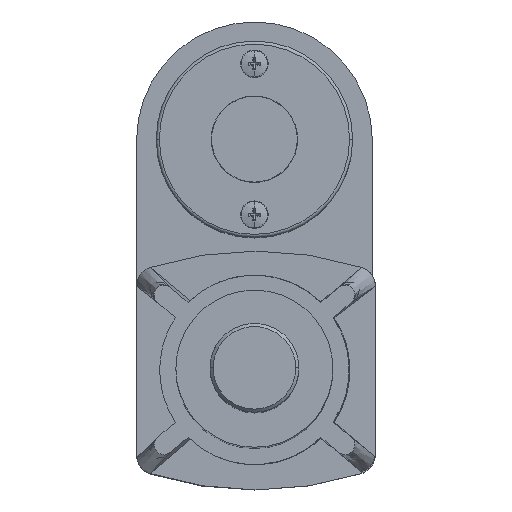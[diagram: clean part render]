
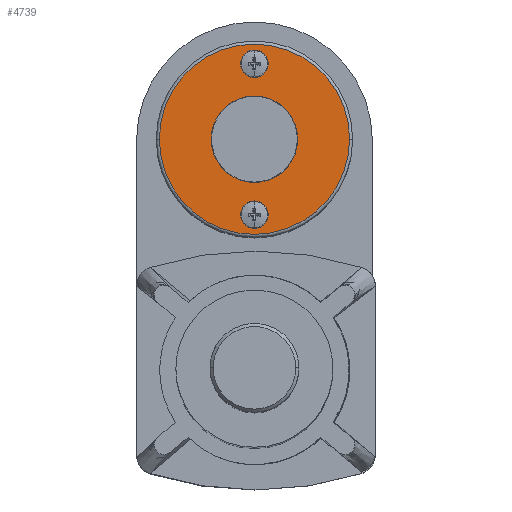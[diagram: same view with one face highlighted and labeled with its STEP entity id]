
A CAD part, top view. The second image highlights one B-rep face of the part: STEP entity #4739.
In plain terms, the highlighted planar face has unit normal (0, 0, 1).
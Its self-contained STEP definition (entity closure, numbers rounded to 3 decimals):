
#60 = EDGE_LOOP ( 'NONE', ( #10079, #9430 ) ) ;
#487 = DIRECTION ( 'NONE',  ( 0., 0., 1. ) ) ;
#711 = ORIENTED_EDGE ( 'NONE', *, *, #6206, .F. ) ;
#783 = DIRECTION ( 'NONE',  ( -1., 0., 0. ) ) ;
#800 = PLANE ( 'NONE',  #6716 ) ;
#1346 = CARTESIAN_POINT ( 'NONE',  ( 36.068, -56.038, 406.098 ) ) ;
#1573 = DIRECTION ( 'NONE',  ( 0., 0., 1. ) ) ;
#1995 = ORIENTED_EDGE ( 'NONE', *, *, #4434, .F. ) ;
#2455 = DIRECTION ( 'NONE',  ( -1., 0., 0. ) ) ;
#2496 = AXIS2_PLACEMENT_3D ( 'NONE', #10697, #3949, #4804 ) ;
#2692 = EDGE_CURVE ( 'NONE', #8243, #8396, #7508, .T. ) ;
#2884 = AXIS2_PLACEMENT_3D ( 'NONE', #4893, #1573, #783 ) ;
#3210 = CARTESIAN_POINT ( 'NONE',  ( 41.148, -56.038, 406.098 ) ) ;
#3275 = CARTESIAN_POINT ( 'NONE',  ( 36.068, -7.238, 406.098 ) ) ;
#3319 = CARTESIAN_POINT ( 'NONE',  ( 38.608, -31.638, 406.098 ) ) ;
#3325 = AXIS2_PLACEMENT_3D ( 'NONE', #10318, #3677, #5331 ) ;
#3510 = VERTEX_POINT ( 'NONE', #3275 ) ;
#3623 = CIRCLE ( 'NONE', #3926, 2.54 ) ;
#3677 = DIRECTION ( 'NONE',  ( 0., 0., 1. ) ) ;
#3915 = CARTESIAN_POINT ( 'NONE',  ( 7.858, -31.638, 406.098 ) ) ;
#3926 = AXIS2_PLACEMENT_3D ( 'NONE', #7344, #9959, #3987 ) ;
#3949 = DIRECTION ( 'NONE',  ( 0., 0., 1. ) ) ;
#3987 = DIRECTION ( 'NONE',  ( -1., 0., 0. ) ) ;
#4144 = EDGE_CURVE ( 'NONE', #8396, #8243, #6259, .T. ) ;
#4339 = DIRECTION ( 'NONE',  ( 0., 0., 1. ) ) ;
#4434 = EDGE_CURVE ( 'NONE', #6786, #3510, #7714, .T. ) ;
#4543 = FACE_BOUND ( 'NONE', #9669, .T. ) ;
#4739 = ADVANCED_FACE ( 'NONE', ( #4543, #6123, #6516 ), #800, .T. ) ;
#4782 = CARTESIAN_POINT ( 'NONE',  ( 38.608, -31.638, 406.098 ) ) ;
#4804 = DIRECTION ( 'NONE',  ( -1., 0., 0. ) ) ;
#4893 = CARTESIAN_POINT ( 'NONE',  ( 38.608, -56.038, 406.098 ) ) ;
#5175 = EDGE_CURVE ( 'NONE', #10694, #7938, #7828, .T. ) ;
#5199 = CIRCLE ( 'NONE', #5430, 30.75 ) ;
#5331 = DIRECTION ( 'NONE',  ( -1., 0., 0. ) ) ;
#5430 = AXIS2_PLACEMENT_3D ( 'NONE', #4782, #487, #6503 ) ;
#5526 = CARTESIAN_POINT ( 'NONE',  ( 41.148, -7.238, 406.098 ) ) ;
#5746 = AXIS2_PLACEMENT_3D ( 'NONE', #6835, #4339, #5892 ) ;
#5892 = DIRECTION ( 'NONE',  ( -1., 0., 0. ) ) ;
#5951 = CARTESIAN_POINT ( 'NONE',  ( 69.358, -31.638, 406.098 ) ) ;
#6123 = FACE_BOUND ( 'NONE', #9315, .T. ) ;
#6206 = EDGE_CURVE ( 'NONE', #3510, #6786, #3623, .T. ) ;
#6259 = CIRCLE ( 'NONE', #3325, 2.54 ) ;
#6503 = DIRECTION ( 'NONE',  ( -1., 0., 0. ) ) ;
#6516 = FACE_OUTER_BOUND ( 'NONE', #60, .T. ) ;
#6716 = AXIS2_PLACEMENT_3D ( 'NONE', #3319, #6751, #2455 ) ;
#6751 = DIRECTION ( 'NONE',  ( 0., 0., 1. ) ) ;
#6786 = VERTEX_POINT ( 'NONE', #5526 ) ;
#6835 = CARTESIAN_POINT ( 'NONE',  ( 38.608, -7.238, 406.098 ) ) ;
#7185 = ORIENTED_EDGE ( 'NONE', *, *, #2692, .F. ) ;
#7344 = CARTESIAN_POINT ( 'NONE',  ( 38.608, -7.238, 406.098 ) ) ;
#7508 = CIRCLE ( 'NONE', #2884, 2.54 ) ;
#7714 = CIRCLE ( 'NONE', #5746, 2.54 ) ;
#7828 = CIRCLE ( 'NONE', #2496, 30.75 ) ;
#7938 = VERTEX_POINT ( 'NONE', #5951 ) ;
#8243 = VERTEX_POINT ( 'NONE', #1346 ) ;
#8396 = VERTEX_POINT ( 'NONE', #3210 ) ;
#9315 = EDGE_LOOP ( 'NONE', ( #711, #1995 ) ) ;
#9430 = ORIENTED_EDGE ( 'NONE', *, *, #9730, .T. ) ;
#9669 = EDGE_LOOP ( 'NONE', ( #7185, #10443 ) ) ;
#9730 = EDGE_CURVE ( 'NONE', #7938, #10694, #5199, .T. ) ;
#9959 = DIRECTION ( 'NONE',  ( 0., 0., 1. ) ) ;
#10079 = ORIENTED_EDGE ( 'NONE', *, *, #5175, .T. ) ;
#10318 = CARTESIAN_POINT ( 'NONE',  ( 38.608, -56.038, 406.098 ) ) ;
#10443 = ORIENTED_EDGE ( 'NONE', *, *, #4144, .F. ) ;
#10694 = VERTEX_POINT ( 'NONE', #3915 ) ;
#10697 = CARTESIAN_POINT ( 'NONE',  ( 38.608, -31.638, 406.098 ) ) ;
